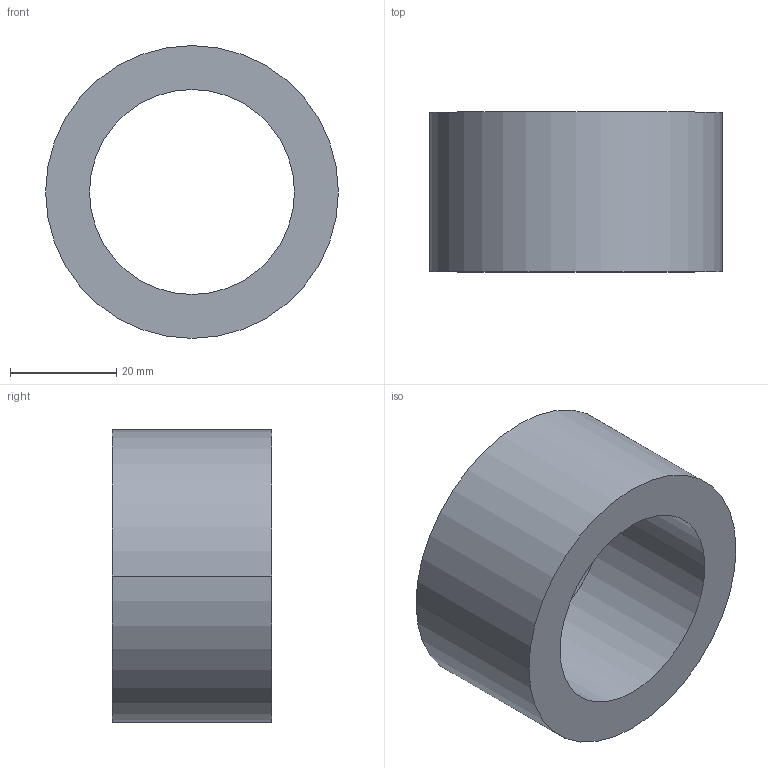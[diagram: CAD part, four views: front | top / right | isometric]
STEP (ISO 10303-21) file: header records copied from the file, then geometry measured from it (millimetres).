
FILE_DESCRIPTION (( 'STEP AP203' ), '1' );
FILE_NAME ('30800.WPP55L38.5.step', '2019-01-23T22:54:54', ( '' ), ( '' ), 'SwSTEP 2.0', 'SolidWorks 2017', '' );
FILE_SCHEMA (( 'CONFIG_CONTROL_DESIGN' ));
Length unit declared in the file: millimetre
Products named in the file (1): 30800.WPP55L38.5
Bounding box: 55 x 30 x 55 mm (x, y, z)
Volume: 36019.3 mm3; surface area: 11059.3 mm2
Topology: 1 solids, 1 shells, 8 faces, 16 edges, 10 vertices
Faces by surface type: cylinder 4, torus 2, plane 2
Entity records: 297 total; most frequent: DIRECTION 46, CARTESIAN_POINT 35, ORIENTED_EDGE 32, AXIS2_PLACEMENT_3D 21, EDGE_CURVE 16, CIRCLE 12, VERTEX_POINT 10, EDGE_LOOP 10
